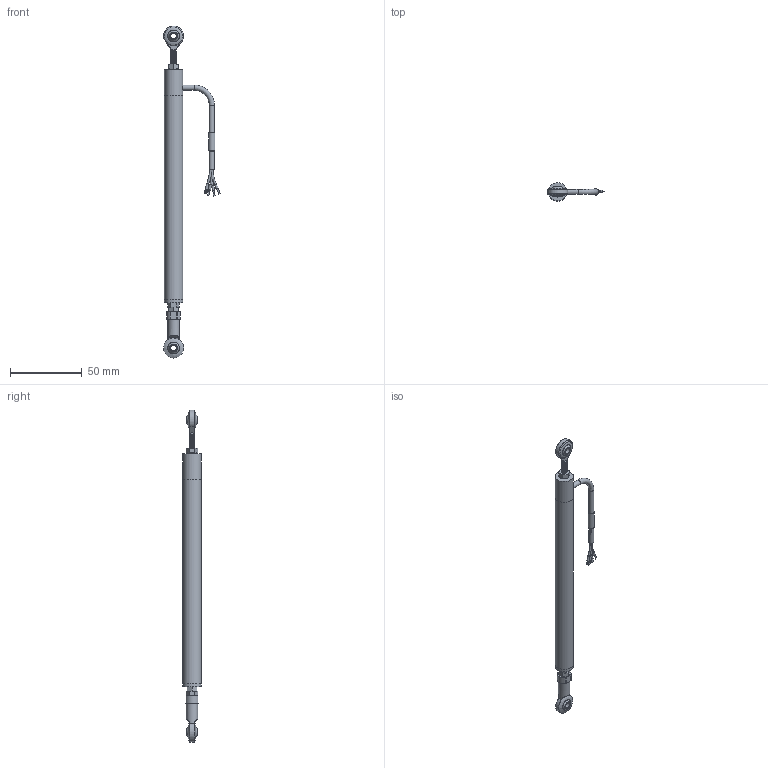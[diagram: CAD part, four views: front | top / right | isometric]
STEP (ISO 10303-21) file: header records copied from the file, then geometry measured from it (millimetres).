
FILE_DESCRIPTION(/* description */ (''),/* implementation_level */ '2;1');
FILE_NAME(/* name */ 'LPPS-12-100-R Assembly (wrapped).step',/* time_stamp */ '2023-10-10T14:07:58-04:00',/* author */ ('TSC_Grant'),/* organization */ (''),/* preprocessor_version */ 'ST-DEVELOPER v19.2',/* originating_system */ 'Autodesk Inventor 2024',/* authorisation */ '');
FILE_SCHEMA (('AUTOMOTIVE_DESIGN { 1 0 10303 214 3 1 1 }'));
Length unit declared in the file: inch
Products named in the file (4): LPPS-12-010-R Assembly (wrapped); LPPS-12-010-R Body (wrapped); LPPS-12-010-R Spoiler (wrapped); Wire
Assembly tree (3 placements, depth 2):
  LPPS-12-010-R Assembly (wrapped)
    LPPS-12-010-R Body (wrapped)
    LPPS-12-010-R Spoiler (wrapped)
    Wire
Bounding box: 39.48 x 12.7 x 230.7 mm (x, y, z)
Volume: 23457.4 mm3; surface area: 13902.2 mm2
Topology: 13 solids, 13 shells, 200 faces, 462 edges, 306 vertices
Faces by surface type: plane 94, cylinder 74, bspline 21, torus 7, sphere 4
Full cylindrical faces by diameter (mm): 1.016 x3, 1.27 x1, 1.524 x3, 1.651 x2, 3.632 x5, 3.937 x14, 4.14 x2, 4.191 x1, 4.445 x1, 6.604 x1, 8.001 x1, 12.7 x3
Entity records: 9544 total; most frequent: CARTESIAN_POINT 4675, ORIENTED_EDGE 924, DIRECTION 895, EDGE_CURVE 462, AXIS2_PLACEMENT_3D 345, VERTEX_POINT 306, EDGE_LOOP 228, LINE 205
